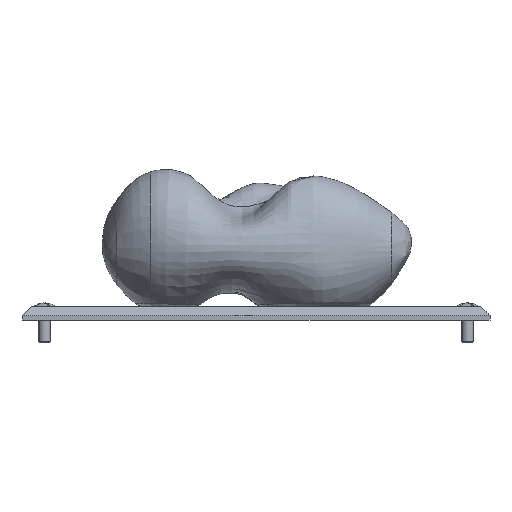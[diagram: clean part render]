
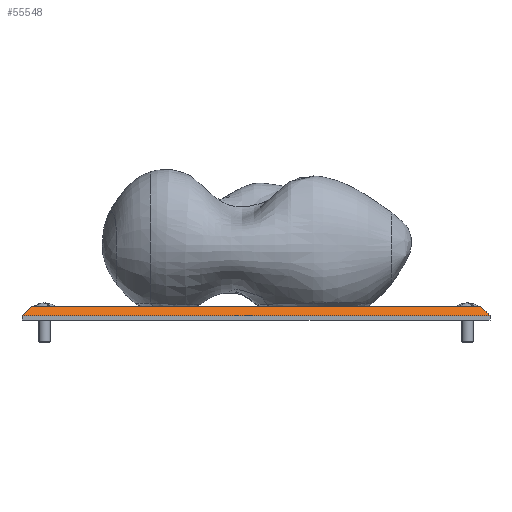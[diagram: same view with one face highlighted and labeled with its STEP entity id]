
A CAD part, left-side view. The second image highlights one B-rep face of the part: STEP entity #55548.
In plain terms, the highlighted planar face has unit normal (-0.707, 0, 0.707) as drawn and (0.707, 0, -0.707) by its records, which use the part's own axes.
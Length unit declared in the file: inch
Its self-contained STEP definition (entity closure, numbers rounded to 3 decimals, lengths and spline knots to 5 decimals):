
#6563 = VECTOR ( 'NONE', #68678, 39.37008 ) ;
#23094 = EDGE_CURVE ( 'NONE', #188861, #325449, #407905, .T. ) ;
#38839 = PLANE ( 'NONE',  #206690 ) ;
#46284 = CARTESIAN_POINT ( 'NONE',  ( 1.0625, 3.09622, 0. ) ) ;
#49594 = EDGE_CURVE ( 'NONE', #273647, #318867, #464852, .T. ) ;
#54985 = EDGE_CURVE ( 'NONE', #318867, #188861, #230095, .T. ) ;
#55548 = ADVANCED_FACE ( 'NONE', ( #447828 ), #38839, .F. ) ;
#60682 = CARTESIAN_POINT ( 'NONE',  ( 1.1875, -3.27878, 0.125 ) ) ;
#61743 = ORIENTED_EDGE ( 'NONE', *, *, #23094, .F. ) ;
#68678 = DIRECTION ( 'NONE',  ( -0.577, 0.577, -0.577 ) ) ;
#75433 = DIRECTION ( 'NONE',  ( 0., -1., 0. ) ) ;
#85981 = CARTESIAN_POINT ( 'NONE',  ( 1.0625, -3.15378, 0. ) ) ;
#111991 = ORIENTED_EDGE ( 'NONE', *, *, #49594, .F. ) ;
#120064 = DIRECTION ( 'NONE',  ( 0., 1., 0. ) ) ;
#121802 = ORIENTED_EDGE ( 'NONE', *, *, #392006, .T. ) ;
#154173 = EDGE_LOOP ( 'NONE', ( #121802, #61743, #360671, #111991 ) ) ;
#188861 = VERTEX_POINT ( 'NONE', #46284 ) ;
#194216 = CARTESIAN_POINT ( 'NONE',  ( 1.1875, 3.22122, 0.125 ) ) ;
#206690 = AXIS2_PLACEMENT_3D ( 'NONE', #194216, #266000, #120064 ) ;
#211229 = DIRECTION ( 'NONE',  ( 0., 1., 0. ) ) ;
#219033 = CARTESIAN_POINT ( 'NONE',  ( 1.0625, 0., 0. ) ) ;
#229573 = VECTOR ( 'NONE', #407202, 39.37008 ) ;
#230095 = LINE ( 'NONE', #256595, #229573 ) ;
#244923 = VECTOR ( 'NONE', #75433, 39.37008 ) ;
#256595 = CARTESIAN_POINT ( 'NONE',  ( 1.1875, 3.22122, 0.125 ) ) ;
#266000 = DIRECTION ( 'NONE',  ( -0.707, 0., 0.707 ) ) ;
#273647 = VERTEX_POINT ( 'NONE', #60682 ) ;
#283032 = CARTESIAN_POINT ( 'NONE',  ( 1.1875, 3.22122, 0.125 ) ) ;
#298547 = VECTOR ( 'NONE', #211229, 39.37008 ) ;
#305431 = CARTESIAN_POINT ( 'NONE',  ( 1.1875, 3.22122, 0.125 ) ) ;
#318867 = VERTEX_POINT ( 'NONE', #305431 ) ;
#325449 = VERTEX_POINT ( 'NONE', #85981 ) ;
#329420 = CARTESIAN_POINT ( 'NONE',  ( -0.97917, -1.11212, -2.04167 ) ) ;
#360671 = ORIENTED_EDGE ( 'NONE', *, *, #54985, .F. ) ;
#392006 = EDGE_CURVE ( 'NONE', #273647, #325449, #396452, .T. ) ;
#396452 = LINE ( 'NONE', #329420, #6563 ) ;
#407202 = DIRECTION ( 'NONE',  ( -0.577, -0.577, -0.577 ) ) ;
#407905 = LINE ( 'NONE', #219033, #244923 ) ;
#447828 = FACE_OUTER_BOUND ( 'NONE', #154173, .T. ) ;
#464852 = LINE ( 'NONE', #283032, #298547 ) ;
